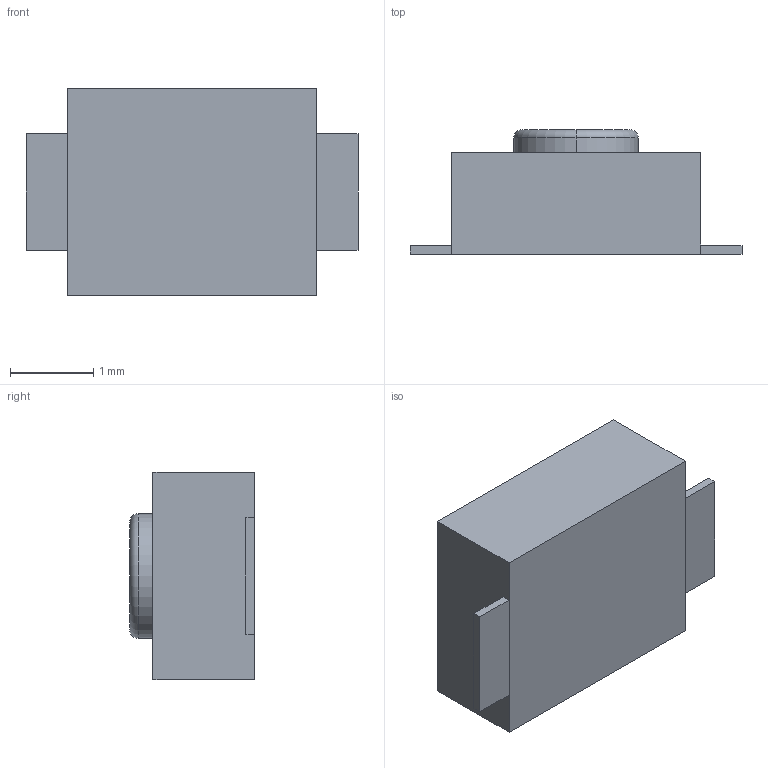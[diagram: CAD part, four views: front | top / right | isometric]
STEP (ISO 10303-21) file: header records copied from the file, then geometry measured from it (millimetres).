
FILE_DESCRIPTION (( 'STEP AP214' ), '1' );
FILE_NAME ('TL1017AAAF260QG.STEP', '2023-12-05T05:20:56', ( '' ), ( '' ), 'SwSTEP 2.0', 'SolidWorks 2022', '' );
FILE_SCHEMA (( 'AUTOMOTIVE_DESIGN' ));
Length unit declared in the file: millimetre
Products named in the file (1): TL1017AAAF260QG
Bounding box: 4 x 1.5 x 2.5 mm (x, y, z)
Volume: 9.8 mm3; surface area: 33.1 mm2
Topology: 3 solids, 3 shells, 23 faces, 46 edges, 30 vertices
Faces by surface type: plane 19, torus 2, cylinder 2
Entity records: 699 total; most frequent: DIRECTION 102, CARTESIAN_POINT 100, ORIENTED_EDGE 92, EDGE_CURVE 46, VECTOR 38, LINE 38, AXIS2_PLACEMENT_3D 32, VERTEX_POINT 30
